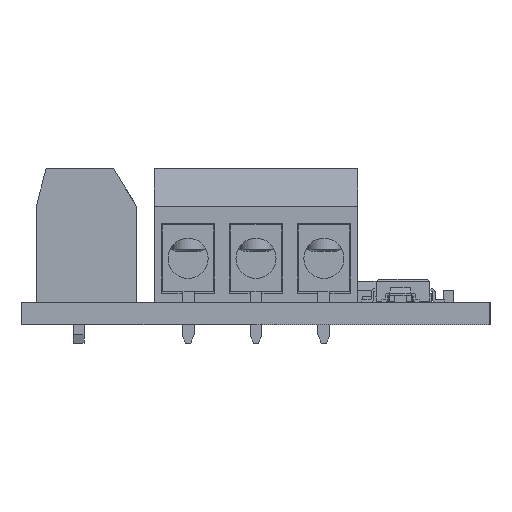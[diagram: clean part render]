
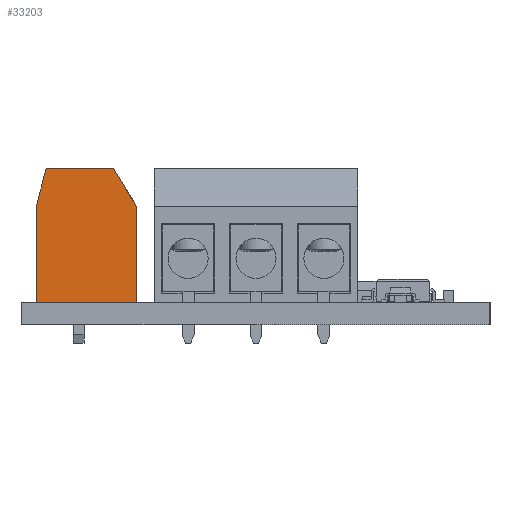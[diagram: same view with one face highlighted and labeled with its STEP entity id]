
A CAD part, left-side view. The second image highlights one B-rep face of the part: STEP entity #33203.
In plain terms, the highlighted planar face has unit normal (-1, 0, 0) as drawn and (1, 0, 0) by its records, which use the part's own axes.
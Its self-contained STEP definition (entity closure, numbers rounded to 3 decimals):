
#3240=PLANE('',#36326);
#4801=FACE_OUTER_BOUND('',#6935,.T.);
#6935=EDGE_LOOP('',(#28685,#28686,#28687,#28688,#28689,#28690));
#9489=LINE('',#53449,#12640);
#9495=LINE('',#53460,#12646);
#9496=LINE('',#53463,#12647);
#9497=LINE('',#53465,#12648);
#9498=LINE('',#53467,#12649);
#9499=LINE('',#53468,#12650);
#12640=VECTOR('',#43577,1000.);
#12646=VECTOR('',#43585,1000.);
#12647=VECTOR('',#43588,1000.);
#12648=VECTOR('',#43589,1000.);
#12649=VECTOR('',#43590,1000.);
#12650=VECTOR('',#43591,1000.);
#17077=VERTEX_POINT('',#53447);
#17078=VERTEX_POINT('',#53448);
#17082=VERTEX_POINT('',#53458);
#17083=VERTEX_POINT('',#53462);
#17084=VERTEX_POINT('',#53464);
#17085=VERTEX_POINT('',#53466);
#21077=EDGE_CURVE('',#17077,#17078,#9489,.T.);
#21083=EDGE_CURVE('',#17082,#17078,#9495,.T.);
#21084=EDGE_CURVE('',#17077,#17083,#9496,.T.);
#21085=EDGE_CURVE('',#17084,#17082,#9497,.T.);
#21086=EDGE_CURVE('',#17085,#17084,#9498,.T.);
#21087=EDGE_CURVE('',#17083,#17085,#9499,.T.);
#28685=ORIENTED_EDGE('',*,*,#21084,.F.);
#28686=ORIENTED_EDGE('',*,*,#21077,.T.);
#28687=ORIENTED_EDGE('',*,*,#21083,.F.);
#28688=ORIENTED_EDGE('',*,*,#21085,.F.);
#28689=ORIENTED_EDGE('',*,*,#21086,.F.);
#28690=ORIENTED_EDGE('',*,*,#21087,.F.);
#33203=ADVANCED_FACE('',(#4801),#3240,.F.);
#36326=AXIS2_PLACEMENT_3D('',#53461,#43586,#43587);
#43577=DIRECTION('',(0.,0.,1.));
#43585=DIRECTION('',(0.,0.526,-0.851));
#43586=DIRECTION('center_axis',(-1.,0.,0.));
#43587=DIRECTION('ref_axis',(0.,0.,
1.));
#43588=DIRECTION('',(0.,-1.,0.));
#43589=DIRECTION('',(0.,1.,0.));
#43590=DIRECTION('',(0.,0.256,0.967));
#43591=DIRECTION('',(0.,0.,1.));
#53447=CARTESIAN_POINT('',(10.212,3.564,0.));
#53448=CARTESIAN_POINT('',(10.212,3.564,7.2));
#53449=CARTESIAN_POINT('',(10.212,3.564,10.));
#53458=CARTESIAN_POINT('',(10.212,1.834,10.));
#53460=CARTESIAN_POINT('',(10.212,1.834,10.));
#53461=CARTESIAN_POINT('Origin',(10.212,3.564,10.));
#53462=CARTESIAN_POINT('',(10.212,-3.936,0.));
#53463=CARTESIAN_POINT('',(10.212,3.564,0.));
#53464=CARTESIAN_POINT('',(10.212,-3.196,10.));
#53465=CARTESIAN_POINT('',(10.212,3.564,10.));
#53466=CARTESIAN_POINT('',(10.212,-3.936,7.2));
#53467=CARTESIAN_POINT('',(10.212,-3.936,7.2));
#53468=CARTESIAN_POINT('',(10.212,-3.936,10.));
